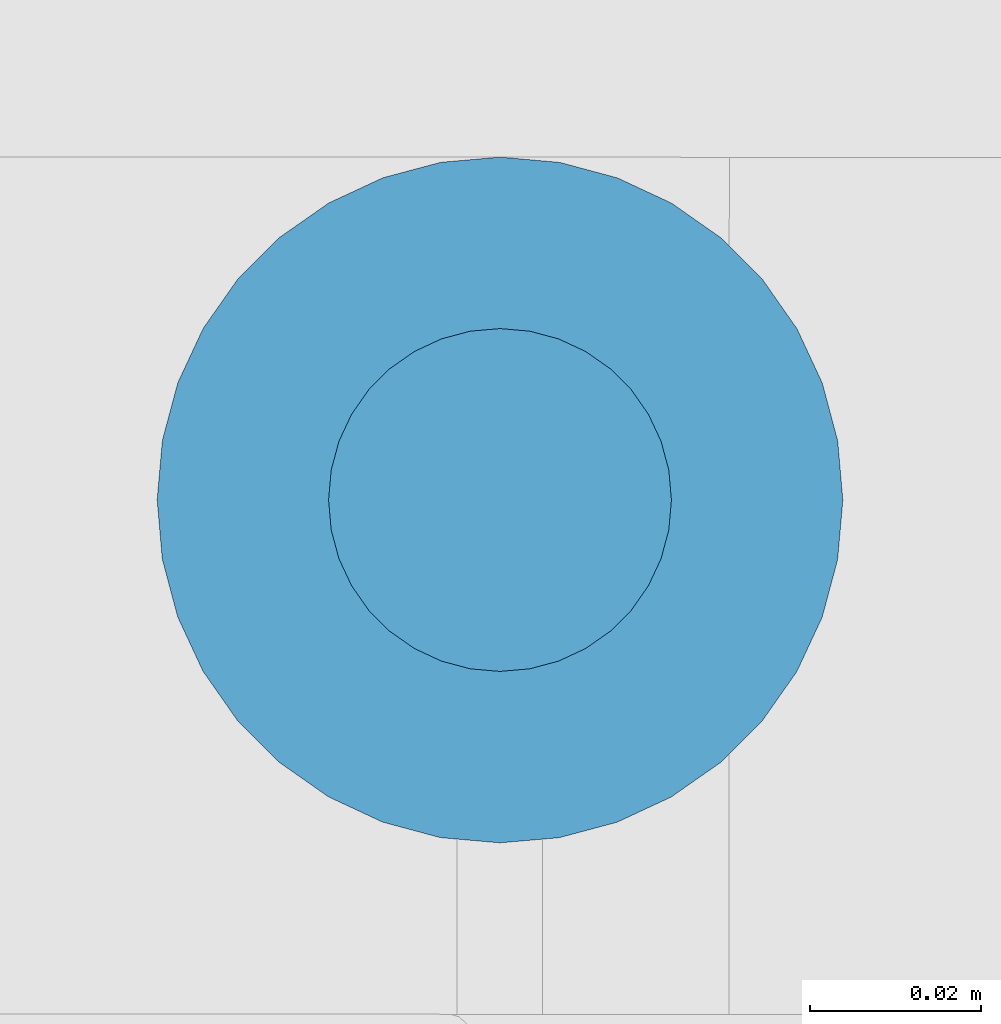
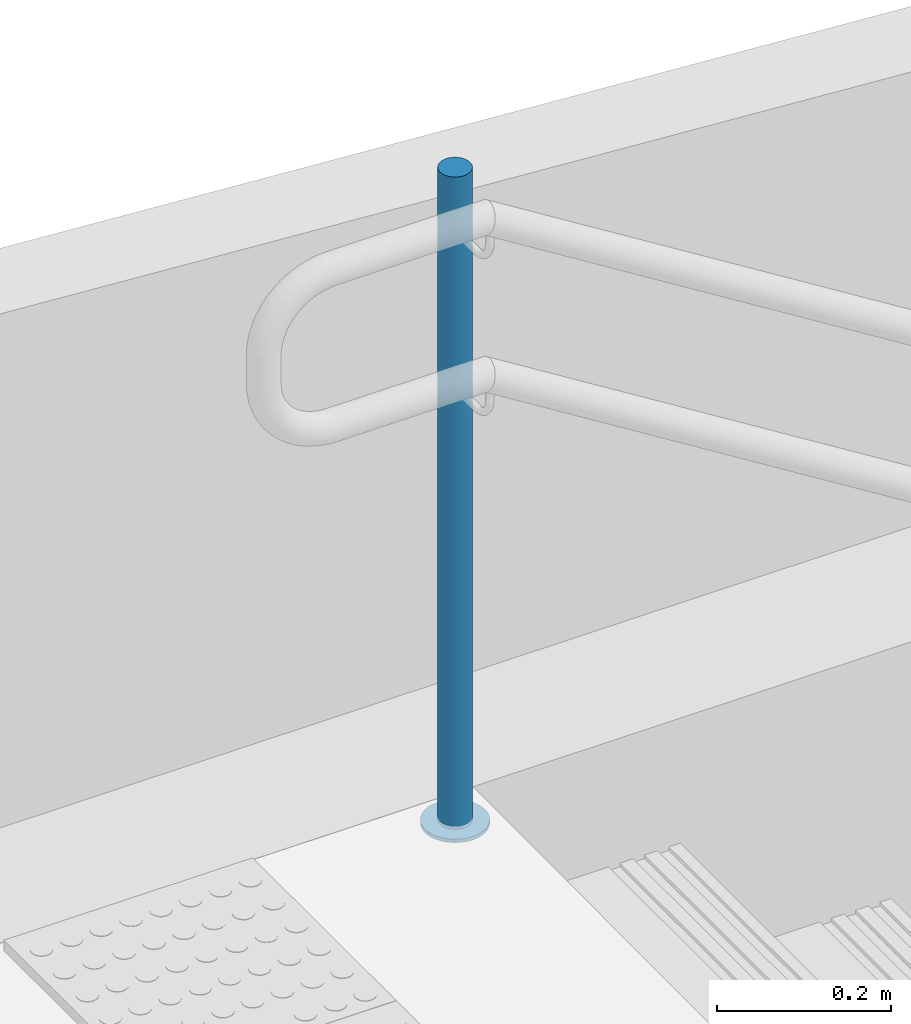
# One storey, part 137 of 237: 2 building element parts, 1 element without a shape of its own.
"""IFC2X3 building model written with IfcOpenShell, lengths in millimetres."""

from ifc_helpers import new_model, entity, si_unit, converted_unit, derived_unit, money_unit, direction, frame, origin_with_axes, place, context, subcontext, project, spatial, faceted_brep, material, type_object, element, aggregate, save


model = new_model("IFC2X3")

# Units and contexts
model_context = context("Model", 3, precision=0.01, world=origin_with_axes(), true_north=direction((0.0, 1.0)))
body_context = subcontext(model_context, "Body", "Model", "MODEL_VIEW")
ifc_project = project(units=[si_unit("LENGTHUNIT", "METRE", prefix="MILLI"), si_unit("AREAUNIT", "SQUARE_METRE"), si_unit("VOLUMEUNIT", "CUBIC_METRE"), converted_unit("PLANEANGLEUNIT", "DEGREE", entity("IfcPlaneAngleMeasure", 0.0174532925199), si_unit("PLANEANGLEUNIT", "RADIAN"), dimensions=[0, 0, 0, 0, 0, 0, 0]), money_unit("USD"), converted_unit("TIMEUNIT", "Year", entity("IfcTimeMeasure", 31556926.0), si_unit("TIMEUNIT", "SECOND"), dimensions=[0, 0, 1, 0, 0, 0, 0]), si_unit("MASSUNIT", "GRAM", prefix="KILO"), si_unit("THERMODYNAMICTEMPERATUREUNIT", "DEGREE_CELSIUS"), si_unit("LUMINOUSINTENSITYUNIT", "LUMEN"), si_unit("ENERGYUNIT", "JOULE", prefix="MEGA"), derived_unit("THERMALCONDUCTANCEUNIT", [(si_unit("POWERUNIT", "WATT"), 1), (si_unit("LENGTHUNIT", "METRE"), -1), (si_unit("THERMODYNAMICTEMPERATUREUNIT", "KELVIN"), -1)]), derived_unit("SPECIFICHEATCAPACITYUNIT", [(si_unit("ENERGYUNIT", "JOULE"), 1), (si_unit("MASSUNIT", "GRAM", prefix="KILO"), -1), (si_unit("THERMODYNAMICTEMPERATUREUNIT", "KELVIN"), -1)]), derived_unit("MASSDENSITYUNIT", [(si_unit("MASSUNIT", "GRAM", prefix="KILO"), 1), (si_unit("VOLUMEUNIT", "CUBIC_METRE"), -1)])], contexts=[model_context])

# Site, building, storey
site_placement = place(None, origin_with_axes())
site = spatial("IfcSite", under=ifc_project, at=site_placement, Name="Local", CompositionType="ELEMENT")
building_placement = place(site_placement, origin_with_axes())
building = spatial("IfcBuilding", under=site, at=building_placement, Name="Construção", CompositionType="ELEMENT")
storey_placement = place(building_placement, origin_with_axes())
storey = spatial("IfcBuildingStorey", under=building, at=storey_placement, Name="Pavimento Térreo", CompositionType="ELEMENT", Elevation=0.0)

# Railing, building element parts
railing_type = type_object("IfcRailingType", Name="Tipo de Guarda-Corpo", PredefinedType="NOTDEFINED")
railing_placement = place(storey_placement, frame((104000.0, 34000.0, -7124.22292764), z_axis=(0.0, 0.0, 1.0), x_axis=(1.0, 0.0, 0.0)))
railing = element("IfcRailing", 1, at=railing_placement, inside=storey, type_object=railing_type, Name="Guarda-Corpo - 001", PredefinedType="NOTDEFINED")
ifc_material_1 = material(Name="Aço - Inoxidável")
building_element_part_1_placement = place(railing_placement, origin_with_axes())
building_element_part_1 = element("IfcBuildingElementPart", 2, at=building_element_part_1_placement, material=ifc_material_1, Name="Aço - Inoxidável", context=body_context, shape_type="Brep", body=[
    faceted_brep([(-3771.85055718, 433.133403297, 2124.51116921), (-3775.32333958, 433.439311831, 2124.51116921), (-3775.32333958, 433.439311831, 3039.51116921), (-3771.85055718, 433.133403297, 3039.51116921), (-3778.79648306, 433.137530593, 2124.51116921), (-3768.48365462, 432.229099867, 2124.51116921), (-3765.32493351, 430.753878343, 2124.51116921), (-3762.47037, 428.752562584, 2124.51116921), (-3760.00669856, 426.285961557, 2124.51116921), (-3758.0087766, 423.429021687, 2124.51116921), (-3756.53730996, 420.268549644, 2124.51116921), (-3755.63700842, 416.900574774, 2124.51116921), (-3755.33522718, 413.427431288, 2124.51116921), (-3755.64113572, 409.954648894, 2124.51116921), (-3756.54543915, 406.587746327, 2124.51116921), (-3758.02066067, 403.429025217, 2124.51116921), (-3760.02197643, 400.574461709, 2124.51116921), (-3762.48857746, 398.110790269, 2124.51116921), (-3765.34551733, 396.112868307, 2124.51116921), (-3768.50598937, 394.641401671, 2124.51116921), (-3771.87396424, 393.741100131, 2124.51116921), (-3775.34710773, 393.439318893, 2124.51116921), (-3778.81989012, 393.745227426, 2124.51116921), (-3782.18679269, 394.649530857, 2124.51116921), (-3785.3455138, 396.124752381, 2124.51116921), (-3788.2000773, 398.126068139, 2124.51116921), (-3790.66374874, 400.592669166, 2124.51116921), (-3792.66167071, 403.449609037, 2124.51116921), (-3794.13313734, 406.610081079, 2124.51116921), (-3795.03343888, 409.978055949, 2124.51116921), (-3795.33522012, 413.451199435, 2124.51116921), (-3795.02931159, 416.92398183, 2124.51116921), (-3794.12500816, 420.290884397, 2124.51116921), (-3792.64978663, 423.449605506, 2124.51116921), (-3790.64847087, 426.304169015, 2124.51116921), (-3788.18186985, 428.767840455, 2124.51116921), (-3785.32492998, 430.765762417, 2124.51116921), (-3782.16445793, 432.237229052, 2124.51116921), (-3778.79648306, 433.137530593, 3039.51116921), (-3755.64113572, 409.954648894, 3039.51116921), (-3755.33522718, 413.427431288, 3039.51116921), (-3755.63700842, 416.900574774, 3039.51116921), (-3756.53730996, 420.268549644, 3039.51116921), (-3758.0087766, 423.429021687, 3039.51116921), (-3760.00669856, 426.285961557, 3039.51116921), (-3762.47037, 428.752562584, 3039.51116921), (-3765.32493351, 430.753878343, 3039.51116921), (-3768.48365462, 432.229099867, 3039.51116921), (-3782.16445793, 432.237229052, 3039.51116921), (-3785.32492998, 430.765762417, 3039.51116921), (-3788.18186985, 428.767840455, 3039.51116921), (-3790.64847087, 426.304169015, 3039.51116921), (-3792.64978663, 423.449605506, 3039.51116921), (-3794.12500816, 420.290884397, 3039.51116921), (-3795.02931159, 416.92398183, 3039.51116921), (-3795.33522012, 413.451199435, 3039.51116921), (-3795.03343888, 409.978055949, 3039.51116921), (-3794.13313734, 406.610081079, 3039.51116921), (-3792.66167071, 403.449609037, 3039.51116921), (-3790.66374874, 400.592669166, 3039.51116921), (-3788.2000773, 398.126068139, 3039.51116921), (-3785.3455138, 396.124752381, 3039.51116921), (-3782.18679269, 394.649530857, 3039.51116921), (-3778.81989012, 393.745227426, 3039.51116921), (-3775.34710773, 393.439318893, 3039.51116921), (-3771.87396424, 393.741100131, 3039.51116921), (-3768.50598937, 394.641401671, 3039.51116921), (-3765.34551733, 396.112868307, 3039.51116921), (-3762.48857746, 398.110790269, 3039.51116921), (-3760.02197643, 400.574461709, 3039.51116921), (-3758.02066067, 403.429025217, 3039.51116921), (-3756.54543915, 406.587746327, 3039.51116921)], [[[0, 1, 2, 3]], [[4, 1, 0, 5, 6, 7, 8, 9, 10, 11, 12, 13, 14, 15, 16, 17, 18, 19, 20, 21, 22, 23, 24, 25, 26, 27, 28, 29, 30, 31, 32, 33, 34, 35, 36, 37]], [[1, 4, 38, 2]], [[39, 40, 41, 42, 43, 44, 45, 46, 47, 3, 2, 38, 48, 49, 50, 51, 52, 53, 54, 55, 56, 57, 58, 59, 60, 61, 62, 63, 64, 65, 66, 67, 68, 69, 70, 71]], [[5, 0, 3, 47]], [[6, 5, 47, 46]], [[7, 6, 46, 45]], [[8, 7, 45, 44]], [[9, 8, 44, 43]], [[10, 9, 43, 42]], [[11, 10, 42, 41]], [[12, 11, 41, 40]], [[13, 12, 40, 39]], [[14, 13, 39, 71]], [[15, 14, 71, 70]], [[16, 15, 70, 69]], [[17, 16, 69, 68]], [[18, 17, 68, 67]], [[19, 18, 67, 66]], [[20, 19, 66, 65]], [[21, 20, 65, 64]], [[22, 21, 64, 63]], [[23, 22, 63, 62]], [[24, 23, 62, 61]], [[25, 24, 61, 60]], [[26, 25, 60, 59]], [[27, 26, 59, 58]], [[28, 27, 58, 57]], [[29, 28, 57, 56]], [[30, 29, 56, 55]], [[31, 30, 55, 54]], [[32, 31, 54, 53]], [[33, 32, 53, 52]], [[34, 33, 52, 51]], [[35, 34, 51, 50]], [[36, 35, 50, 49]], [[37, 36, 49, 48]], [[4, 37, 48, 38]]]),
])
ifc_material_2 = material(Name="Alumínio")
building_element_part_2_placement = place(railing_placement, origin_with_axes())
building_element_part_2 = element("IfcBuildingElementPart", 3, at=building_element_part_2_placement, material=ifc_material_2, Name="Alumínio", context=body_context, shape_type="Brep", body=[
    faceted_brep([(-3815.33521659, 413.463083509, 2119.51116921), (-3814.73165411, 406.516796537, 2119.51116921), (-3814.73165411, 406.516796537, 2124.51116921), (-3815.33521659, 413.463083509, 2124.51116921), (-3814.72339952, 420.408648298, 2119.51116921), (-3812.91479266, 427.142453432, 2119.51116921), (-3809.96434961, 433.45989565, 2119.51116921), (-3805.9617181, 439.169022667, 2119.51116921), (-3801.02851604, 444.096365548, 2119.51116921), (-3795.3146363, 448.092209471, 2119.51116921), (-3788.99369222, 451.035142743, 2119.51116921), (-3782.25774248, 452.835745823, 2119.51116921), (-3775.3114555, 453.4393083, 2119.51116921), (-3768.36589072, 452.827491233, 2119.51116921), (-3761.63208558, 451.018884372, 2119.51116921), (-3755.31464336, 448.068441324, 2119.51116921), (-3749.60551635, 444.065809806, 2119.51116921), (-3744.67817347, 439.132607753, 2119.51116921), (-3740.68232954, 433.418728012, 2119.51116921), (-3737.73939627, 427.097783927, 2119.51116921), (-3735.93879319, 420.361834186, 2119.51116921), (-3735.33523071, 413.415547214, 2119.51116921), (-3735.94704778, 406.469982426, 2119.51116921), (-3737.75565464, 399.736177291, 2119.51116921), (-3740.70609769, 393.418735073, 2119.51116921), (-3744.70872921, 387.709608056, 2119.51116921), (-3749.64193126, 382.782265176, 2119.51116921), (-3755.355811, 378.786421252, 2119.51116921), (-3761.67675509, 375.843487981, 2119.51116921), (-3768.41270483, 374.0428849, 2119.51116921), (-3775.3589918, 373.439322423, 2119.51116921), (-3782.30455659, 374.051139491, 2119.51116921), (-3789.03836172, 375.859746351, 2119.51116921), (-3795.35580394, 378.8101894, 2119.51116921), (-3801.06493096, 382.812820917, 2119.51116921), (-3805.99227384, 387.746022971, 2119.51116921), (-3809.98811776, 393.459902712, 2119.51116921), (-3812.93105103, 399.780846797, 2119.51116921), (-3812.93105103, 399.780846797, 2124.51116921), (-3809.98811776, 393.459902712, 2124.51116921), (-3805.99227384, 387.746022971, 2124.51116921), (-3801.06493096, 382.812820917, 2124.51116921), (-3795.35580394, 378.8101894, 2124.51116921), (-3789.03836172, 375.859746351, 2124.51116921), (-3782.30455659, 374.051139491, 2124.51116921), (-3775.3589918, 373.439322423, 2124.51116921), (-3768.41270483, 374.0428849, 2124.51116921), (-3761.67675509, 375.843487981, 2124.51116921), (-3755.355811, 378.786421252, 2124.51116921), (-3749.64193126, 382.782265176, 2124.51116921), (-3744.70872921, 387.709608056, 2124.51116921), (-3740.70609769, 393.418735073, 2124.51116921), (-3737.75565464, 399.736177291, 2124.51116921), (-3735.94704778, 406.469982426, 2124.51116921), (-3735.33523071, 413.415547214, 2124.51116921), (-3735.93879319, 420.361834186, 2124.51116921), (-3737.73939627, 427.097783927, 2124.51116921), (-3740.68232954, 433.418728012, 2124.51116921), (-3744.67817347, 439.132607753, 2124.51116921), (-3749.60551635, 444.065809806, 2124.51116921), (-3755.31464336, 448.068441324, 2124.51116921), (-3761.63208558, 451.018884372, 2124.51116921), (-3768.36589072, 452.827491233, 2124.51116921), (-3775.3114555, 453.4393083, 2124.51116921), (-3782.25774248, 452.835745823, 2124.51116921), (-3788.99369222, 451.035142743, 2124.51116921), (-3795.3146363, 448.092209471, 2124.51116921), (-3801.02851604, 444.096365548, 2124.51116921), (-3805.9617181, 439.169022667, 2124.51116921), (-3809.96434961, 433.45989565, 2124.51116921), (-3812.91479266, 427.142453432, 2124.51116921), (-3814.72339952, 420.408648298, 2124.51116921)], [[[0, 1, 2, 3]], [[0, 4, 5, 6, 7, 8, 9, 10, 11, 12, 13, 14, 15, 16, 17, 18, 19, 20, 21, 22, 23, 24, 25, 26, 27, 28, 29, 30, 31, 32, 33, 34, 35, 36, 37, 1]], [[1, 37, 38, 2]], [[3, 2, 38, 39, 40, 41, 42, 43, 44, 45, 46, 47, 48, 49, 50, 51, 52, 53, 54, 55, 56, 57, 58, 59, 60, 61, 62, 63, 64, 65, 66, 67, 68, 69, 70, 71]], [[4, 0, 3, 71]], [[5, 4, 71, 70]], [[6, 5, 70, 69]], [[7, 6, 69, 68]], [[8, 7, 68, 67]], [[9, 8, 67, 66]], [[10, 9, 66, 65]], [[11, 10, 65, 64]], [[12, 11, 64, 63]], [[13, 12, 63, 62]], [[14, 13, 62, 61]], [[15, 14, 61, 60]], [[16, 15, 60, 59]], [[17, 16, 59, 58]], [[18, 17, 58, 57]], [[19, 18, 57, 56]], [[20, 19, 56, 55]], [[21, 20, 55, 54]], [[22, 21, 54, 53]], [[23, 22, 53, 52]], [[24, 23, 52, 51]], [[25, 24, 51, 50]], [[26, 25, 50, 49]], [[27, 26, 49, 48]], [[28, 27, 48, 47]], [[29, 28, 47, 46]], [[30, 29, 46, 45]], [[31, 30, 45, 44]], [[32, 31, 44, 43]], [[33, 32, 43, 42]], [[34, 33, 42, 41]], [[35, 34, 41, 40]], [[36, 35, 40, 39]], [[37, 36, 39, 38]]]),
])
aggregate(railing, [building_element_part_1, building_element_part_2])

save(model, "model.ifc")
